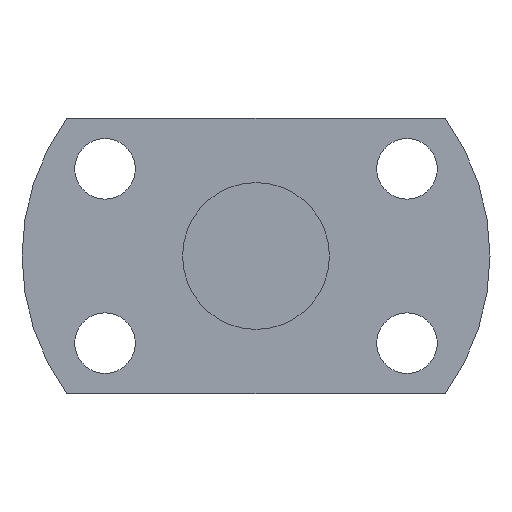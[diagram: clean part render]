
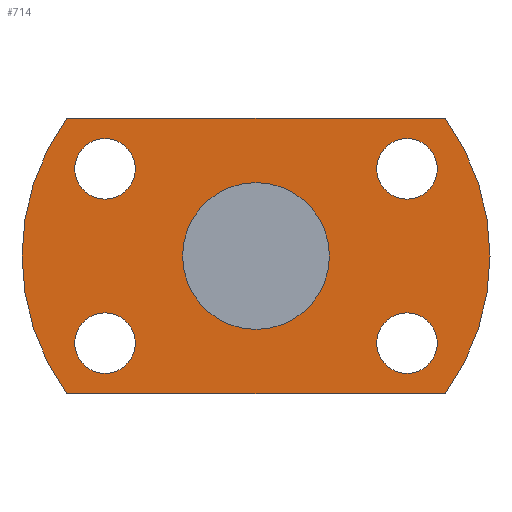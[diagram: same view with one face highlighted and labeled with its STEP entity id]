
A CAD part, left-side view. The second image highlights one B-rep face of the part: STEP entity #714.
In plain terms, the highlighted planar face has unit normal (-1, 0, 0).
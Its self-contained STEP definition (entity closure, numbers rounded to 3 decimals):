
#230=CARTESIAN_POINT('',(130.0,16.454,-6.2));
#231=VERTEX_POINT('',#230);
#232=CARTESIAN_POINT('',(130.0,16.454,-9.5));
#233=DIRECTION('',(1.0,0.0,0.0));
#234=DIRECTION('',(0.0,0.0,1.0));
#235=AXIS2_PLACEMENT_3D('',#232,#233,#234);
#236=CIRCLE('',#235,3.3);
#237=EDGE_CURVE('',#231,#231,#236,.T.);
#279=CARTESIAN_POINT('',(130.0,-16.454,12.8));
#280=VERTEX_POINT('',#279);
#281=CARTESIAN_POINT('',(130.0,-16.454,9.5));
#282=DIRECTION('',(1.0,0.0,0.0));
#283=DIRECTION('',(0.0,0.0,1.0));
#284=AXIS2_PLACEMENT_3D('',#281,#282,#283);
#285=CIRCLE('',#284,3.3);
#286=EDGE_CURVE('',#280,#280,#285,.T.);
#328=CARTESIAN_POINT('',(130.0,-16.454,-6.2));
#329=VERTEX_POINT('',#328);
#330=CARTESIAN_POINT('',(130.0,-16.454,-9.5));
#331=DIRECTION('',(1.0,0.0,0.0));
#332=DIRECTION('',(0.0,0.0,1.0));
#333=AXIS2_PLACEMENT_3D('',#330,#331,#332);
#334=CIRCLE('',#333,3.3);
#335=EDGE_CURVE('',#329,#329,#334,.T.);
#377=CARTESIAN_POINT('',(130.0,16.454,12.8));
#378=VERTEX_POINT('',#377);
#379=CARTESIAN_POINT('',(130.0,16.454,9.5));
#380=DIRECTION('',(1.0,0.0,0.0));
#381=DIRECTION('',(0.0,0.0,1.0));
#382=AXIS2_PLACEMENT_3D('',#379,#380,#381);
#383=CIRCLE('',#382,3.3);
#384=EDGE_CURVE('',#378,#378,#383,.T.);
#548=CARTESIAN_POINT('',(130.0,-20.622,-15.0));
#549=VERTEX_POINT('',#548);
#556=CARTESIAN_POINT('',(130.0,20.622,-15.0));
#557=VERTEX_POINT('',#556);
#558=CARTESIAN_POINT('',(130.0,20.622,-15.0));
#559=DIRECTION('',(0.0,-1.0,0.0));
#560=VECTOR('',#559,41.243);
#561=LINE('',#558,#560);
#562=EDGE_CURVE('',#557,#549,#561,.T.);
#579=CARTESIAN_POINT('',(130.0,-20.622,15.0));
#580=VERTEX_POINT('',#579);
#587=CARTESIAN_POINT('',(130.0,0.0,0.0));
#588=DIRECTION('',(-1.0,0.0,0.0));
#589=DIRECTION('',(0.0,0.0,1.0));
#590=AXIS2_PLACEMENT_3D('',#587,#588,#589);
#591=CIRCLE('',#590,25.5);
#592=EDGE_CURVE('',#549,#580,#591,.T.);
#604=CARTESIAN_POINT('',(130.0,20.622,15.0));
#605=VERTEX_POINT('',#604);
#612=CARTESIAN_POINT('',(130.0,-20.622,15.0));
#613=DIRECTION('',(0.0,1.0,0.0));
#614=VECTOR('',#613,41.243);
#615=LINE('',#612,#614);
#616=EDGE_CURVE('',#580,#605,#615,.T.);
#629=CARTESIAN_POINT('',(130.0,0.0,0.0));
#630=DIRECTION('',(-1.0,0.0,0.0));
#631=DIRECTION('',(0.0,0.0,1.0));
#632=AXIS2_PLACEMENT_3D('',#629,#630,#631);
#633=CIRCLE('',#632,25.5);
#634=EDGE_CURVE('',#605,#557,#633,.T.);
#680=CARTESIAN_POINT('',(130.0,0.0,11.));
#681=DIRECTION('',(-1.0,0.0,0.0));
#682=DIRECTION('',(0.0,0.0,1.0));
#683=AXIS2_PLACEMENT_3D('',#680,#681,#682);
#684=PLANE('',#683);
#685=ORIENTED_EDGE('',*,*,#634,.T.);
#686=ORIENTED_EDGE('',*,*,#562,.T.);
#687=ORIENTED_EDGE('',*,*,#592,.T.);
#688=ORIENTED_EDGE('',*,*,#616,.T.);
#689=EDGE_LOOP('',(#685,#686,#687,#688));
#690=FACE_OUTER_BOUND('',#689,.T.);
#691=ORIENTED_EDGE('',*,*,#237,.T.);
#692=EDGE_LOOP('',(#691));
#693=FACE_BOUND('',#692,.T.);
#694=ORIENTED_EDGE('',*,*,#286,.T.);
#695=EDGE_LOOP('',(#694));
#696=FACE_BOUND('',#695,.T.);
#697=ORIENTED_EDGE('',*,*,#335,.T.);
#698=EDGE_LOOP('',(#697));
#699=FACE_BOUND('',#698,.T.);
#700=ORIENTED_EDGE('',*,*,#384,.T.);
#701=EDGE_LOOP('',(#700));
#702=FACE_BOUND('',#701,.T.);
#703=CARTESIAN_POINT('',(130.0,0.0,8.));
#704=VERTEX_POINT('',#703);
#705=CARTESIAN_POINT('',(130.0,0.0,0.0));
#706=DIRECTION('',(-1.0,0.0,0.0));
#707=DIRECTION('',(0.0,0.0,1.0));
#708=AXIS2_PLACEMENT_3D('',#705,#706,#707);
#709=CIRCLE('',#708,8.);
#710=EDGE_CURVE('',#704,#704,#709,.T.);
#711=ORIENTED_EDGE('',*,*,#710,.F.);
#712=EDGE_LOOP('',(#711));
#713=FACE_BOUND('',#712,.T.);
#714=ADVANCED_FACE('',(#690,#693,#696,#699,#702,#713),#684,.T.);
